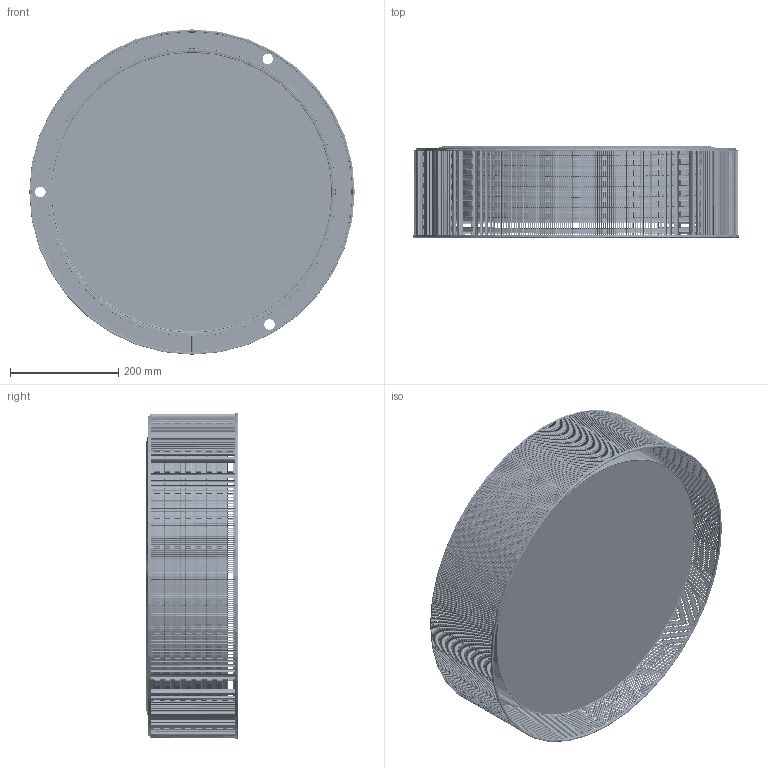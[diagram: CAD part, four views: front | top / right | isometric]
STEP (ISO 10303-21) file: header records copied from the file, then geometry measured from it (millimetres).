
FILE_DESCRIPTION(/* description */ (''),/* implementation_level */ '2;1');
FILE_NAME(/* name */ 'C:/Users/kubaw/OneDrive/Pulpit/6584_JUTA v3.step',/* time_stamp */ '2021-12-13T19:50:26+01:00',/* author */ (''),/* organization */ (''),/* preprocessor_version */ 'ST-DEVELOPER v18.1',/* originating_system */ 'Autodesk Translation Framework v10.10.0.1391',/* authorisation */ '');
FILE_SCHEMA (('AUTOMOTIVE_DESIGN { 1 0 10303 214 3 1 1 }'));
Products named in the file (4): 6584_JUTA; 6584_JUTA_SRODEK; MOCOWANIE_PLAFON v2; POKRYWA_600 v5
Assembly tree (3 placements, depth 3):
  6584_JUTA
    6584_JUTA_SRODEK
      MOCOWANIE_PLAFON v2
      POKRYWA_600 v5
Bounding box: 600 x 169 x 600 mm (x, y, z)
Volume: 1429405.3 mm3; surface area: 2842367 mm2
Topology: 1701 solids, 1701 shells, 19678 faces, 42796 edges, 26517 vertices
Faces by surface type: plane 9600, cylinder 9382, torus 656, bspline 40
Full cylindrical faces by diameter (mm): 2 x1, 14.819 x8, 18 x1, 19.404 x3, 19.8 x1, 20.058 x4, 28.544 x4, 30 x4, 40 x4, 45 x4, 96 x1, 100 x1, 514.086 x2, 517.65 x1, 529.234 x1, 530.125 x1, 531.907 x1, 532.798 x1, 588.038 x1, 589.882 x1, 591.822 x1, 592 x1, 596 x160, 597 x160, 598.998 x1, 600 x1
Entity records: 532785 total; most frequent: DIRECTION 96891, CARTESIAN_POINT 91161, ORIENTED_EDGE 85592, EDGE_CURVE 42796, AXIS2_PLACEMENT_3D 34462, LINE 27967, VECTOR 27967, VERTEX_POINT 26517
